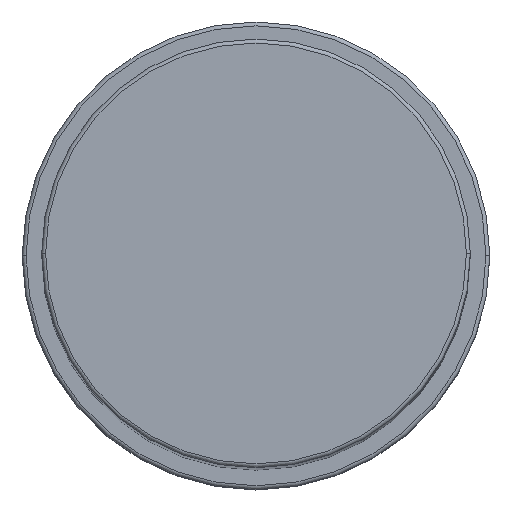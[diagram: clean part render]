
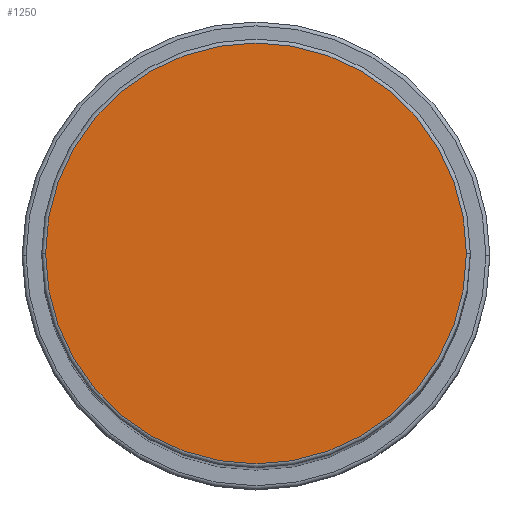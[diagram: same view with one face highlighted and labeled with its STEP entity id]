
A CAD part, top view. The second image highlights one B-rep face of the part: STEP entity #1250.
In plain terms, the highlighted planar face has unit normal (0, 0, 1).
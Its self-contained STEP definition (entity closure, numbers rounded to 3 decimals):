
#118 = CARTESIAN_POINT ( 'NONE',  ( 0., 0., 188. ) ) ;
#132 = DIRECTION ( 'NONE',  ( 0., 0., 1. ) ) ;
#330 = EDGE_LOOP ( 'NONE', ( #1895, #720 ) ) ;
#475 = VERTEX_POINT ( 'NONE', #1323 ) ;
#635 = CARTESIAN_POINT ( 'NONE',  ( 0., 0., 188. ) ) ;
#720 = ORIENTED_EDGE ( 'NONE', *, *, #4166, .T. ) ;
#884 = PLANE ( 'NONE',  #4703 ) ;
#1091 = CIRCLE ( 'NONE', #4296, 27. ) ;
#1250 = ADVANCED_FACE ( 'NONE', ( #3852 ), #884, .T. ) ;
#1323 = CARTESIAN_POINT ( 'NONE',  ( -27., 0., 188. ) ) ;
#1717 = DIRECTION ( 'NONE',  ( 1., 0., 0. ) ) ;
#1775 = DIRECTION ( 'NONE',  ( 1., 0., 0. ) ) ;
#1895 = ORIENTED_EDGE ( 'NONE', *, *, #3200, .T. ) ;
#2267 = VERTEX_POINT ( 'NONE', #3861 ) ;
#2392 = DIRECTION ( 'NONE',  ( 1., 0., 0. ) ) ;
#3200 = EDGE_CURVE ( 'NONE', #2267, #475, #4883, .T. ) ;
#3232 = CARTESIAN_POINT ( 'NONE',  ( 0., 0., 188. ) ) ;
#3261 = DIRECTION ( 'NONE',  ( 0., 0., 1. ) ) ;
#3601 = DIRECTION ( 'NONE',  ( 0., 0., 1. ) ) ;
#3852 = FACE_OUTER_BOUND ( 'NONE', #330, .T. ) ;
#3861 = CARTESIAN_POINT ( 'NONE',  ( 27., 0., 188. ) ) ;
#4117 = AXIS2_PLACEMENT_3D ( 'NONE', #3232, #3601, #1717 ) ;
#4166 = EDGE_CURVE ( 'NONE', #475, #2267, #1091, .T. ) ;
#4296 = AXIS2_PLACEMENT_3D ( 'NONE', #635, #3261, #1775 ) ;
#4703 = AXIS2_PLACEMENT_3D ( 'NONE', #118, #132, #2392 ) ;
#4883 = CIRCLE ( 'NONE', #4117, 27. ) ;
